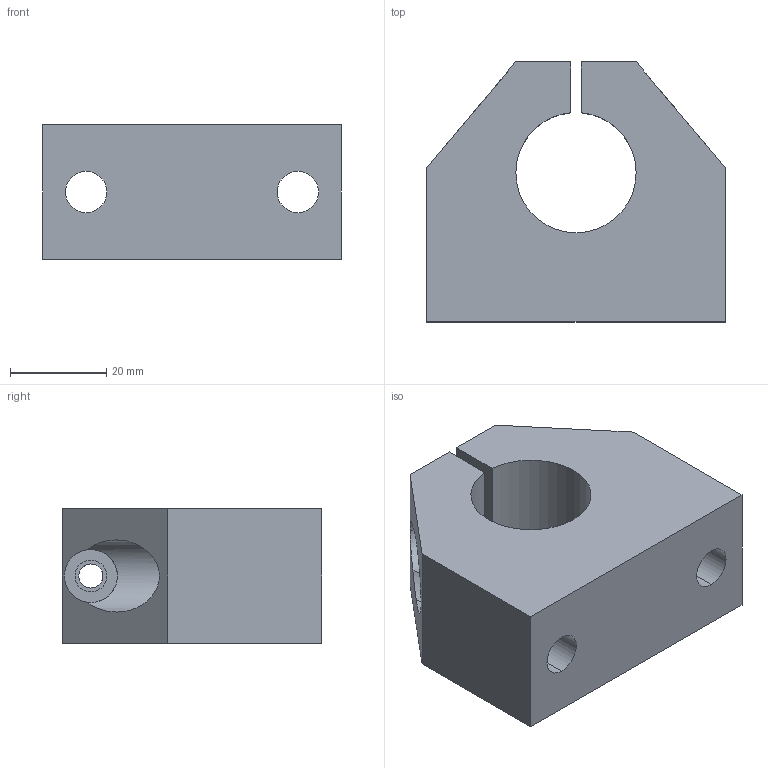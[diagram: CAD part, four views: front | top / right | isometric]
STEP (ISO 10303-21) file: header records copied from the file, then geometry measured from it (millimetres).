
FILE_DESCRIPTION (( 'STEP AP214' ), '1' );
FILE_NAME ('KWBC58-25.step', '2020-03-04T13:12:02', ( '' ), ( '' ), 'SwSTEP 2.0', 'SolidWorks 2019', '' );
FILE_SCHEMA (( 'AUTOMOTIVE_DESIGN' ));
Length unit declared in the file: millimetre
Products named in the file (1): KWBC58-25
Bounding box: 62 x 54 x 28 mm (x, y, z)
Volume: 57596.5 mm3; surface area: 16456.8 mm2
Topology: 1 solids, 1 shells, 31 faces, 81 edges, 54 vertices
Faces by surface type: cylinder 17, plane 14
Entity records: 1183 total; most frequent: CARTESIAN_POINT 302, ORIENTED_EDGE 162, DIRECTION 160, EDGE_CURVE 81, AXIS2_PLACEMENT_3D 58, VERTEX_POINT 54, VECTOR 44, LINE 44
